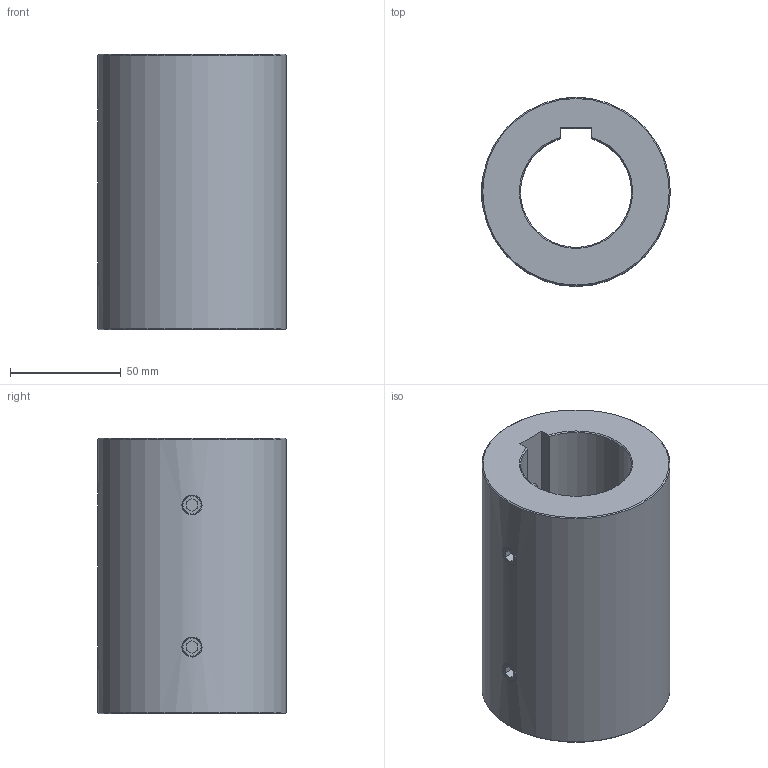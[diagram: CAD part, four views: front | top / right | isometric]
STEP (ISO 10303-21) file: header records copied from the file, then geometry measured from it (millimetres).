
FILE_DESCRIPTION (( 'STEP AP214' ), '1' );
FILE_NAME ('KBST1-VA-N50.STEP', '2025-07-29T07:37:08', ( '' ), ( '' ), 'SwSTEP 2.0', 'SolidWorks 2024', '' );
FILE_SCHEMA (( 'AUTOMOTIVE_DESIGN' ));
Length unit declared in the file: millimetre
Products named in the file (1): KBST1-VA-N50
Bounding box: 85 x 85 x 124 mm (x, y, z)
Volume: 447723.8 mm3; surface area: 64405.2 mm2
Topology: 5 solids, 5 shells, 83 faces, 191 edges, 114 vertices
Faces by surface type: plane 37, cone 28, cylinder 14, bspline 4
Full cylindrical faces by diameter (mm): 8.5 x4, 85 x1
Entity records: 8804 total; most frequent: CARTESIAN_POINT 6044, DIRECTION 358, ORIENTED_EDGE 340, EDGE_CURVE 170, AXIS2_PLACEMENT_3D 122, LINE 114, VECTOR 114, VERTEX_POINT 112
